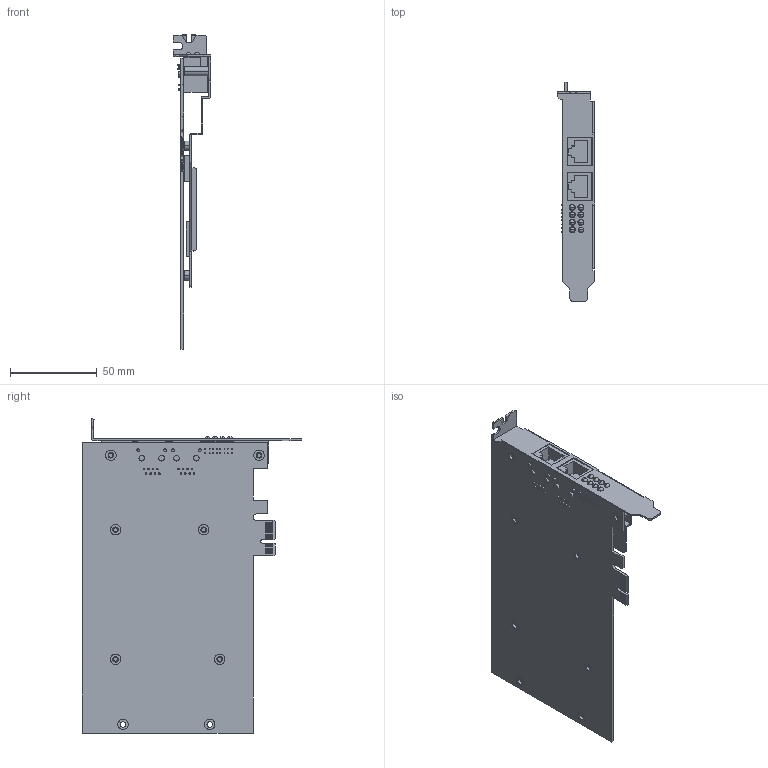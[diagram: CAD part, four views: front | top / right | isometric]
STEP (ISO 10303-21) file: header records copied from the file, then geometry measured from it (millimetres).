
FILE_DESCRIPTION((''),'2;1');
FILE_NAME('3D_DA-PRP-HSR','2014-12-16T',('Justin_Huang'),(''),'PRO/ENGINEER BY PARAMETRIC TECHNOLOGY CORPORATION, 2013230','PRO/ENGINEER BY PARAMETRIC TECHNOLOGY CORPORATION, 2013230','');
FILE_SCHEMA(('AUTOMOTIVE_DESIGN { 1 0 10303 214 1 1 1 1 }'));
Length unit declared in the file: metre
Products named in the file (1): 3D_DA-PRP-HSR
Bounding box: 21.59 x 126.31 x 181.11 mm (x, y, z)
Volume: 49336.4 mm3; surface area: 63852.4 mm2
Topology: 1 solids, 1 shells, 710 faces, 1720 edges, 1094 vertices
Faces by surface type: plane 463, cylinder 219, bspline 16, torus 12
Entity records: 25735 total; most frequent: CARTESIAN_POINT 3958, DIRECTION 3620, ORIENTED_EDGE 3440, EDGE_CURVE 1720, VECTOR 1208, LINE 1208, AXIS2_PLACEMENT_3D 1206, VERTEX_POINT 1094
